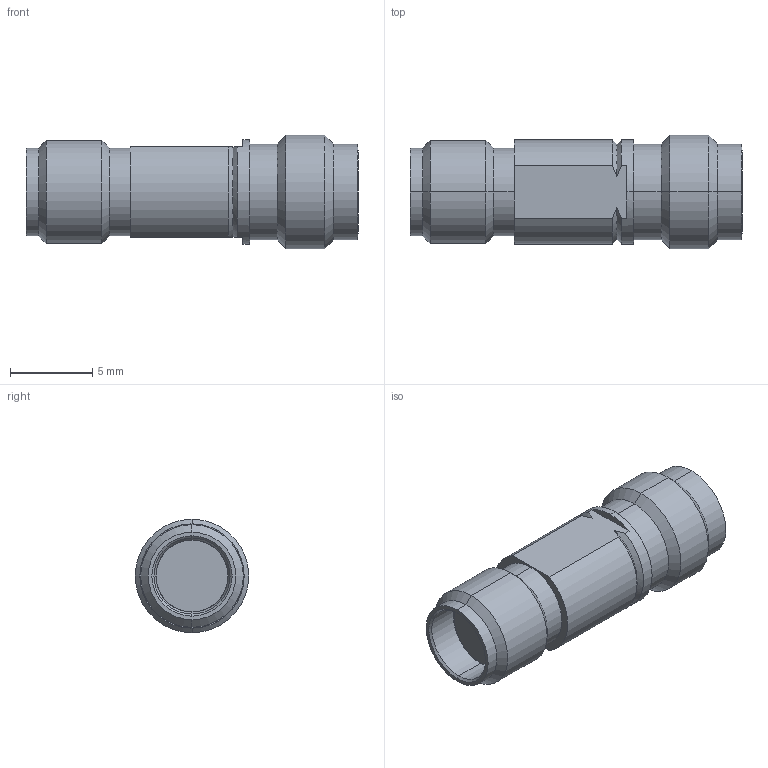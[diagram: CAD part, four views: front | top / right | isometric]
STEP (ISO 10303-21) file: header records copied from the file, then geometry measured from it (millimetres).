
FILE_DESCRIPTION (( 'STEP AP214' ), '1' );
FILE_NAME ('SF1116-6004.STEP', '2016-12-22T21:11:21', ( '' ), ( '' ), 'SwSTEP 2.0', 'SolidWorks 2016', '' );
FILE_SCHEMA (( 'AUTOMOTIVE_DESIGN' ));
Length unit declared in the file: inch
Products named in the file (1): SF1116-6004
Bounding box: 20.22 x 6.91 x 6.91 mm (x, y, z)
Volume: 510.3 mm3; surface area: 551.4 mm2
Topology: 1 solids, 1 shells, 53 faces, 114 edges, 68 vertices
Faces by surface type: cylinder 24, cone 18, plane 11
Entity records: 2145 total; most frequent: DIRECTION 272, CARTESIAN_POINT 260, ORIENTED_EDGE 228, EDGE_CURVE 114, AXIS2_PLACEMENT_3D 112, VERTEX_POINT 68, CIRCLE 58, EDGE_LOOP 58
